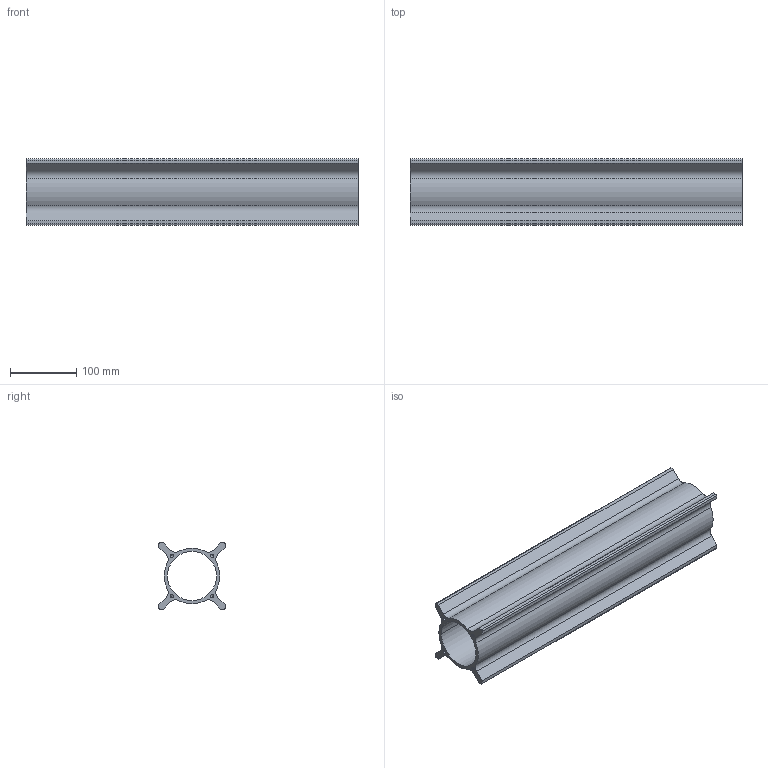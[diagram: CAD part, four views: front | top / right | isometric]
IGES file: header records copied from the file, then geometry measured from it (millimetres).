
Global section: file name: No Iges File Name specified; native system: AutoDesk Inventor R11.0; preprocessor: AutoDesk Inventor Iges Exporter R11.0; author: No Author specified; organization: No Organization specified; date: 20071112.091832; units: millimetre
Bounding box: 500 x 100 x 100 mm (x, y, z)
Volume: 1190201.3 mm3; surface area: 347302.1 mm2
Topology: 1 solids, 1 shells, 68 faces, 182 edges, 108 vertices
Faces by surface type: revolution 26, plane 18, bspline 16, cylinder 8
